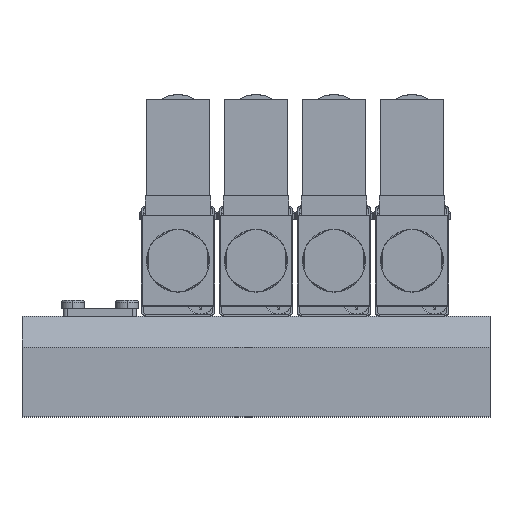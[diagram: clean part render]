
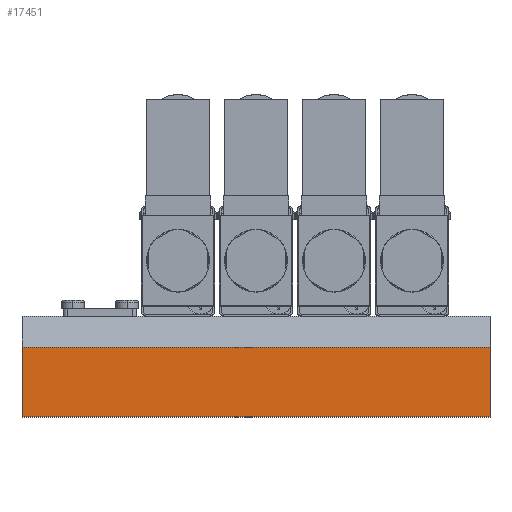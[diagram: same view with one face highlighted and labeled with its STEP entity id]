
A CAD part, top view. The second image highlights one B-rep face of the part: STEP entity #17451.
In plain terms, the highlighted planar face has unit normal (0, 0, 1).
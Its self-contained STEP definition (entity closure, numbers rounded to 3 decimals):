
#381 = CARTESIAN_POINT ( 'NONE',  ( -57., 0., 29. ) ) ;
#990 = CARTESIAN_POINT ( 'NONE',  ( 57., 0., 29. ) ) ;
#1212 = CARTESIAN_POINT ( 'NONE',  ( 57., 0., 29. ) ) ;
#1781 = VERTEX_POINT ( 'NONE', #990 ) ;
#1924 = ORIENTED_EDGE ( 'NONE', *, *, #5703, .T. ) ;
#2446 = LINE ( 'NONE', #3584, #14697 ) ;
#3584 = CARTESIAN_POINT ( 'NONE',  ( 57., 17., 29. ) ) ;
#3899 = VECTOR ( 'NONE', #13867, 1000. ) ;
#3983 = EDGE_CURVE ( 'NONE', #16228, #1781, #2446, .T. ) ;
#4724 = VECTOR ( 'NONE', #20855, 1000. ) ;
#4781 = ORIENTED_EDGE ( 'NONE', *, *, #12582, .F. ) ;
#4875 = CARTESIAN_POINT ( 'NONE',  ( 57., 17., 29. ) ) ;
#5703 = EDGE_CURVE ( 'NONE', #16228, #14274, #17663, .T. ) ;
#5914 = LINE ( 'NONE', #12097, #20963 ) ;
#5939 = EDGE_CURVE ( 'NONE', #14274, #20926, #5914, .T. ) ;
#7476 = ORIENTED_EDGE ( 'NONE', *, *, #5939, .T. ) ;
#8330 = FACE_OUTER_BOUND ( 'NONE', #19219, .T. ) ;
#8405 = DIRECTION ( 'NONE',  ( 0., -1., 0. ) ) ;
#10801 = CARTESIAN_POINT ( 'NONE',  ( 57., 17., 29. ) ) ;
#11191 = CARTESIAN_POINT ( 'NONE',  ( 57., 17., 29. ) ) ;
#11330 = ORIENTED_EDGE ( 'NONE', *, *, #3983, .F. ) ;
#11516 = PLANE ( 'NONE',  #11932 ) ;
#11586 = DIRECTION ( 'NONE',  ( 0., 0., -1. ) ) ;
#11932 = AXIS2_PLACEMENT_3D ( 'NONE', #4875, #11586, #14715 ) ;
#12097 = CARTESIAN_POINT ( 'NONE',  ( -57., 17., 29. ) ) ;
#12582 = EDGE_CURVE ( 'NONE', #1781, #20926, #17206, .T. ) ;
#13867 = DIRECTION ( 'NONE',  ( -1., 0., 0. ) ) ;
#14274 = VERTEX_POINT ( 'NONE', #18853 ) ;
#14697 = VECTOR ( 'NONE', #8405, 1000. ) ;
#14715 = DIRECTION ( 'NONE',  ( -1., 0., 0. ) ) ;
#16228 = VERTEX_POINT ( 'NONE', #11191 ) ;
#16992 = DIRECTION ( 'NONE',  ( 0., -1., 0. ) ) ;
#17206 = LINE ( 'NONE', #1212, #4724 ) ;
#17451 = ADVANCED_FACE ( 'NONE', ( #8330 ), #11516, .F. ) ;
#17663 = LINE ( 'NONE', #10801, #3899 ) ;
#18853 = CARTESIAN_POINT ( 'NONE',  ( -57., 17., 29. ) ) ;
#19219 = EDGE_LOOP ( 'NONE', ( #7476, #4781, #11330, #1924 ) ) ;
#20855 = DIRECTION ( 'NONE',  ( -1., 0., 0. ) ) ;
#20926 = VERTEX_POINT ( 'NONE', #381 ) ;
#20963 = VECTOR ( 'NONE', #16992, 1000. ) ;
